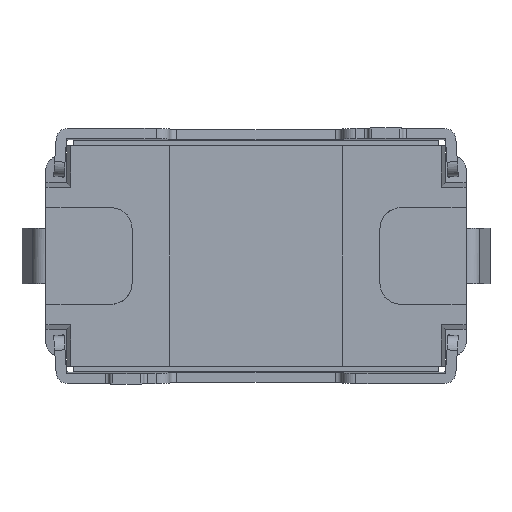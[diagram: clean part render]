
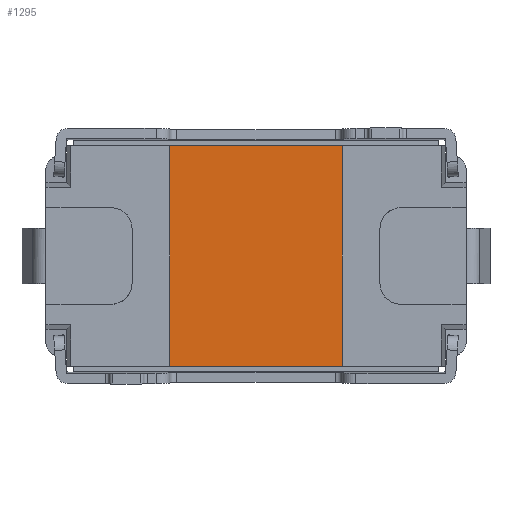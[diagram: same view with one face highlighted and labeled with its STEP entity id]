
A CAD part, front view. The second image highlights one B-rep face of the part: STEP entity #1295.
In plain terms, the highlighted planar face has unit normal (0, -1, 0).
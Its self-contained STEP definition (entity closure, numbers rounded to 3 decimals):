
#787 = VERTEX_POINT ( 'NONE', #2133 ) ;
#788 = VERTEX_POINT ( 'NONE', #2131 ) ;
#789 = VERTEX_POINT ( 'NONE', #2129 ) ;
#790 = VERTEX_POINT ( 'NONE', #2126 ) ;
#1295 = ADVANCED_FACE ( 'NONE', ( #13063 ), #11704, .T. ) ;
#1315 = EDGE_CURVE ( 'NONE', #787, #788, #12736, .T. ) ;
#1318 = EDGE_CURVE ( 'NONE', #789, #790, #12726, .T. ) ;
#2126 = CARTESIAN_POINT ( 'NONE',  ( -1.25, 0.08, -1.6 ) ) ;
#2129 = CARTESIAN_POINT ( 'NONE',  ( -1.25, 0.08, 1.6 ) ) ;
#2131 = CARTESIAN_POINT ( 'NONE',  ( 1.25, 0.08, 1.6 ) ) ;
#2133 = CARTESIAN_POINT ( 'NONE',  ( 1.25, 0.08, -1.6 ) ) ;
#2362 = ORIENTED_EDGE ( 'NONE', *, *, #1315, .T. ) ;
#2363 = ORIENTED_EDGE ( 'NONE', *, *, #1318, .T. ) ;
#2366 = ORIENTED_EDGE ( 'NONE', *, *, #5060, .T. ) ;
#2367 = ORIENTED_EDGE ( 'NONE', *, *, #5062, .T. ) ;
#4658 = DIRECTION ( 'NONE',  ( -1., 0., 0. ) ) ;
#4664 = CARTESIAN_POINT ( 'NONE',  ( 0., 0.08, 1.6 ) ) ;
#4665 = LINE ( 'NONE', #4664, #7363 ) ;
#4670 = DIRECTION ( 'NONE',  ( 1., 0., 0. ) ) ;
#4673 = CARTESIAN_POINT ( 'NONE',  ( 0., 0.08, -1.6 ) ) ;
#4674 = LINE ( 'NONE', #4673, #7365 ) ;
#5060 = EDGE_CURVE ( 'NONE', #790, #787, #4674, .T. ) ;
#5062 = EDGE_CURVE ( 'NONE', #788, #789, #4665, .T. ) ;
#6335 = EDGE_LOOP ( 'NONE', ( #2363, #2366, #2362, #2367 ) ) ;
#7363 = VECTOR ( 'NONE', #4658, 1000. ) ;
#7365 = VECTOR ( 'NONE', #4670, 1000. ) ;
#8162 = AXIS2_PLACEMENT_3D ( 'NONE', #11671, #11672, #11669 ) ;
#8184 = VECTOR ( 'NONE', #12724, 1000. ) ;
#8189 = VECTOR ( 'NONE', #12738, 1000. ) ;
#11669 = DIRECTION ( 'NONE',  ( 0., 0., -1. ) ) ;
#11671 = CARTESIAN_POINT ( 'NONE',  ( 0., 0.08, -1.6 ) ) ;
#11672 = DIRECTION ( 'NONE',  ( 0., -1., 0. ) ) ;
#11704 = PLANE ( 'NONE',  #8162 ) ;
#12724 = DIRECTION ( 'NONE',  ( 0., 0., -1. ) ) ;
#12725 = CARTESIAN_POINT ( 'NONE',  ( -1.25, 0.08, -1.6 ) ) ;
#12726 = LINE ( 'NONE', #12725, #8184 ) ;
#12736 = LINE ( 'NONE', #12737, #8189 ) ;
#12737 = CARTESIAN_POINT ( 'NONE',  ( 1.25, 0.08, -1.6 ) ) ;
#12738 = DIRECTION ( 'NONE',  ( 0., 0., 1. ) ) ;
#13063 = FACE_OUTER_BOUND ( 'NONE', #6335, .T. ) ;
